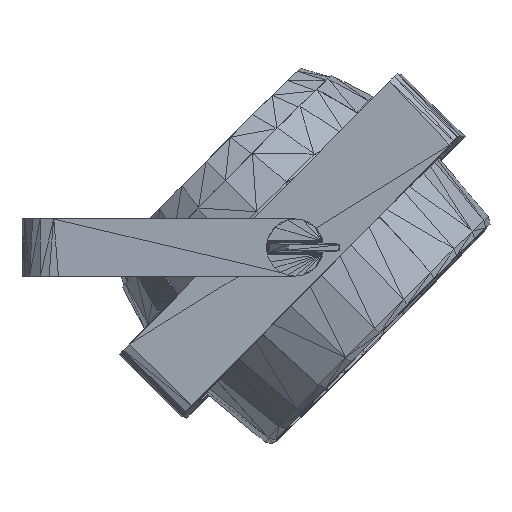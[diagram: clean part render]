
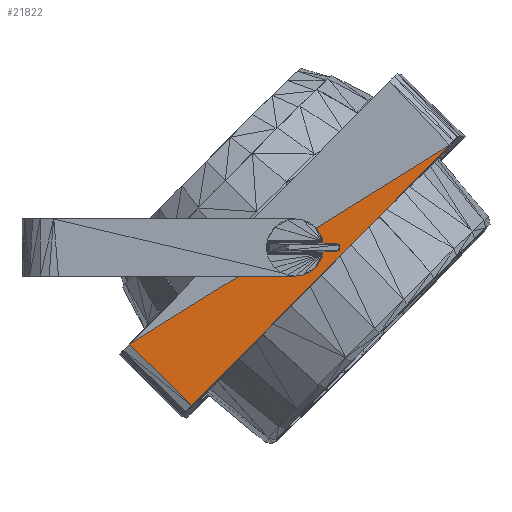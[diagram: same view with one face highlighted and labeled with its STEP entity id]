
A CAD part, left-side view. The second image highlights one B-rep face of the part: STEP entity #21822.
In plain terms, the highlighted planar face has unit normal (-1, 0.014, 0.006) as drawn and (-1, 0, 0) by its records, which use the part's own axes.
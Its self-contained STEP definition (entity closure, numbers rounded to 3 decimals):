
#1738=FACE_OUTER_BOUND('',#3511,.T.);
#3511=EDGE_LOOP('',(#18058,#18059,#18060,#18061,#18062,#18063,#18064,#18065,
#18066,#18067,#18068,#18069,#18070,#18071,#18072));
#5804=LINE('',#34580,#8558);
#5808=LINE('',#34588,#8562);
#5810=LINE('',#34592,#8564);
#5813=LINE('',#34598,#8567);
#5816=LINE('',#34604,#8570);
#5818=LINE('',#34608,#8572);
#5821=LINE('',#34614,#8575);
#5823=LINE('',#34618,#8577);
#5826=LINE('',#34624,#8580);
#5828=LINE('',#34628,#8582);
#5838=LINE('',#34648,#8592);
#5867=LINE('',#34706,#8621);
#5870=LINE('',#34711,#8624);
#6248=LINE('',#35456,#9002);
#6250=LINE('',#35459,#9004);
#8558=VECTOR('',#28903,10.);
#8562=VECTOR('',#28909,10.);
#8564=VECTOR('',#28913,10.);
#8567=VECTOR('',#28918,10.);
#8570=VECTOR('',#28923,10.);
#8572=VECTOR('',#28927,10.);
#8575=VECTOR('',#28932,10.);
#8577=VECTOR('',#28936,10.);
#8580=VECTOR('',#28941,10.);
#8582=VECTOR('',#28945,10.);
#8592=VECTOR('',#28965,10.);
#8621=VECTOR('',#29026,10.);
#8624=VECTOR('',#29029,10.);
#9002=VECTOR('',#29867,10.);
#9004=VECTOR('',#29871,10.);
#9873=VERTEX_POINT('',#34578);
#9874=VERTEX_POINT('',#34579);
#9877=VERTEX_POINT('',#34587);
#9878=VERTEX_POINT('',#34591);
#9880=VERTEX_POINT('',#34597);
#9882=VERTEX_POINT('',#34603);
#9883=VERTEX_POINT('',#34607);
#9885=VERTEX_POINT('',#34613);
#9886=VERTEX_POINT('',#34617);
#9888=VERTEX_POINT('',#34623);
#9889=VERTEX_POINT('',#34627);
#9894=VERTEX_POINT('',#34647);
#9907=VERTEX_POINT('',#34705);
#9909=VERTEX_POINT('',#34709);
#10046=VERTEX_POINT('',#35455);
#12277=EDGE_CURVE('',#9873,#9874,#5804,.T.);
#12281=EDGE_CURVE('',#9877,#9873,#5808,.T.);
#12283=EDGE_CURVE('',#9878,#9877,#5810,.T.);
#12286=EDGE_CURVE('',#9880,#9878,#5813,.T.);
#12289=EDGE_CURVE('',#9882,#9880,#5816,.T.);
#12291=EDGE_CURVE('',#9883,#9882,#5818,.T.);
#12294=EDGE_CURVE('',#9885,#9883,#5821,.T.);
#12296=EDGE_CURVE('',#9886,#9885,#5823,.T.);
#12299=EDGE_CURVE('',#9888,#9886,#5826,.T.);
#12301=EDGE_CURVE('',#9889,#9888,#5828,.T.);
#12311=EDGE_CURVE('',#9874,#9894,#5838,.T.);
#12340=EDGE_CURVE('',#9889,#9907,#5867,.T.);
#12343=EDGE_CURVE('',#9909,#9894,#5870,.T.);
#12721=EDGE_CURVE('',#10046,#9909,#6248,.T.);
#12723=EDGE_CURVE('',#10046,#9907,#6250,.T.);
#18058=ORIENTED_EDGE('',*,*,#12311,.T.);
#18059=ORIENTED_EDGE('',*,*,#12343,.F.);
#18060=ORIENTED_EDGE('',*,*,#12721,.F.);
#18061=ORIENTED_EDGE('',*,*,#12723,.T.);
#18062=ORIENTED_EDGE('',*,*,#12340,.F.);
#18063=ORIENTED_EDGE('',*,*,#12301,.T.);
#18064=ORIENTED_EDGE('',*,*,#12299,.T.);
#18065=ORIENTED_EDGE('',*,*,#12296,.T.);
#18066=ORIENTED_EDGE('',*,*,#12294,.T.);
#18067=ORIENTED_EDGE('',*,*,#12291,.T.);
#18068=ORIENTED_EDGE('',*,*,#12289,.T.);
#18069=ORIENTED_EDGE('',*,*,#12286,.T.);
#18070=ORIENTED_EDGE('',*,*,#12283,.T.);
#18071=ORIENTED_EDGE('',*,*,#12281,.T.);
#18072=ORIENTED_EDGE('',*,*,#12277,.T.);
#20049=PLANE('',#23739);
#21822=ADVANCED_FACE('',(#1738),#20049,.T.);
#23739=AXIS2_PLACEMENT_3D('',#35458,#29869,#29870);
#28903=DIRECTION('',(0.,-1.,0.));
#28909=DIRECTION('',(0.,-0.924,0.383));
#28913=DIRECTION('',(0.,-0.866,0.5));
#28918=DIRECTION('',(0.,-0.5,0.866));
#28923=DIRECTION('',(0.,-0.5,0.866));
#28927=DIRECTION('',(0.,0.,1.));
#28932=DIRECTION('',(0.,0.,1.));
#28936=DIRECTION('',(0.,0.5,0.866));
#28941=DIRECTION('',(0.,0.5,0.866));
#28945=DIRECTION('',(0.,0.924,0.383));
#28965=DIRECTION('',(0.,-0.966,-0.259));
#29026=DIRECTION('',(0.,0.232,-0.973));
#29029=DIRECTION('',(0.,0.232,-0.973));
#29867=DIRECTION('',(0.,-1.,0.));
#29869=DIRECTION('center_axis',(-1.,0.,0.));
#29870=DIRECTION('ref_axis',(0.,0.,1.));
#29871=DIRECTION('',(0.,0.,-1.));
#34578=CARTESIAN_POINT('',(-189.747,-261.62,24.868));
#34579=CARTESIAN_POINT('',(-189.747,-262.49,24.868));
#34580=CARTESIAN_POINT('',(-189.747,-244.555,24.868));
#34587=CARTESIAN_POINT('',(-189.747,-245.183,18.06));
#34588=CARTESIAN_POINT('',(-189.747,-270.988,28.749));
#34591=CARTESIAN_POINT('',(-189.747,-244.43,17.625));
#34592=CARTESIAN_POINT('',(-189.747,-275.323,35.461));
#34597=CARTESIAN_POINT('',(-189.747,-243.995,16.872));
#34598=CARTESIAN_POINT('',(-189.747,-275.692,71.773));
#34603=CARTESIAN_POINT('',(-189.747,-237.978,6.451));
#34604=CARTESIAN_POINT('',(-189.747,-272.467,66.187));
#34607=CARTESIAN_POINT('',(-189.747,-237.978,5.581));
#34608=CARTESIAN_POINT('',(-189.747,-237.978,91.114));
#34613=CARTESIAN_POINT('',(-189.747,-237.978,-6.451));
#34614=CARTESIAN_POINT('',(-189.747,-237.978,84.663));
#34617=CARTESIAN_POINT('',(-189.747,-238.414,-7.205));
#34618=CARTESIAN_POINT('',(-189.747,-196.353,65.646));
#34623=CARTESIAN_POINT('',(-189.747,-244.43,-17.625));
#34624=CARTESIAN_POINT('',(-189.747,-199.579,60.059));
#34627=CARTESIAN_POINT('',(-189.747,-257.096,-22.872));
#34628=CARTESIAN_POINT('',(-189.747,-208.885,-2.902));
#34647=CARTESIAN_POINT('',(-189.747,-268.13,23.357));
#34648=CARTESIAN_POINT('',(-189.747,-230.108,33.545));
#34705=CARTESIAN_POINT('',(-189.747,-220.604,-175.776));
#34706=CARTESIAN_POINT('',(-189.747,-304.506,175.776));
#34709=CARTESIAN_POINT('',(-189.747,-304.506,175.776));
#34711=CARTESIAN_POINT('',(-189.747,-304.506,175.776));
#35455=CARTESIAN_POINT('',(-189.747,-220.604,175.776));
#35456=CARTESIAN_POINT('',(-189.747,-220.604,175.776));
#35458=CARTESIAN_POINT('Origin',(-189.747,-220.604,175.776));
#35459=CARTESIAN_POINT('',(-189.747,-220.604,175.776));
